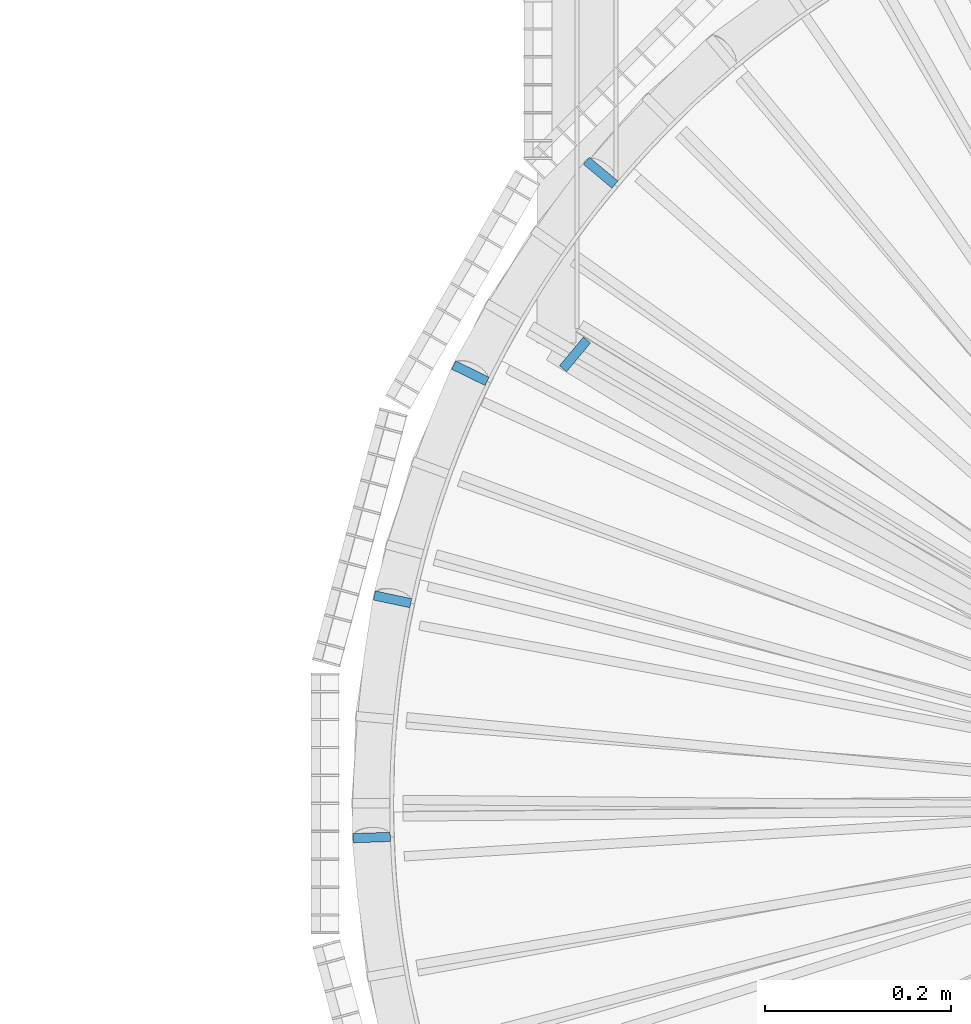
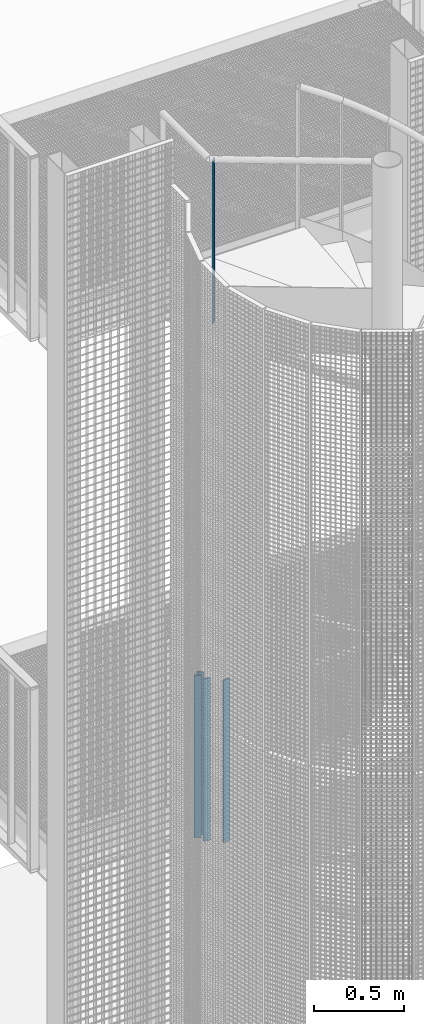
# One storey, part 7 of 1148: 5 columns, 4 elements without a shape of their own.
"""IFC2X3 building model written with IfcOpenShell, lengths in millimetres."""

from ifc_helpers import new_model, si_unit, frame, origin_with_axes, origin_2d_with_axis, place, context, subcontext, project, spatial, rectangle, extrude, material, type_object, element, aggregate, save


model = new_model("IFC2X3")

# Units and contexts
model_context = context("Model", 3, precision=1e-05, world=origin_with_axes())
body_context = subcontext(model_context, "Body", "Model", "MODEL_VIEW")
ifc_project = project(units=[si_unit("LENGTHUNIT", "METRE", prefix="MILLI"), si_unit("AREAUNIT", "SQUARE_METRE"), si_unit("VOLUMEUNIT", "CUBIC_METRE"), si_unit("MASSUNIT", "GRAM", prefix="KILO"), si_unit("TIMEUNIT", "SECOND"), si_unit("PLANEANGLEUNIT", "RADIAN"), si_unit("SOLIDANGLEUNIT", "STERADIAN"), si_unit("THERMODYNAMICTEMPERATUREUNIT", "DEGREE_CELSIUS"), si_unit("LUMINOUSINTENSITYUNIT", "LUMEN")], contexts=[model_context])

# Site, building, storey
site_placement = place(None, origin_with_axes())
site = spatial("IfcSite", under=ifc_project, at=site_placement, Name="Undefined", CompositionType="ELEMENT")
building_placement = place(site_placement, origin_with_axes())
building = spatial("IfcBuilding", under=site, at=building_placement, Name="Undefined", CompositionType="ELEMENT")
storey_placement = place(building_placement, origin_with_axes())
storey = spatial("IfcBuildingStorey", under=building, at=storey_placement, Name="Undefined", CompositionType="ELEMENT", Elevation=0.0)

# Assembly, column
assembly_1_placement = place(storey_placement, origin_with_axes())
assembly_1 = element("IfcElementAssembly", 1, at=assembly_1_placement, inside=storey, Name="MONTANT", AssemblyPlace="NOTDEFINED", PredefinedType="NOTDEFINED")
ifc_material = material(Name="STEEL/S235JR")
column_type = type_object("IfcColumnType", Name="PL10*40", PredefinedType="NOTDEFINED")
column_1_placement = place(assembly_1_placement, frame((-834.974357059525, 482.240511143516, 17289.84), z_axis=(0.0, 0.0, 1.0), x_axis=(0.640155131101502, 0.768245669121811, 0.0)))
column_1 = element("IfcColumn", 2, at=column_1_placement, type_object=column_type, material=ifc_material, Name="MONTANT", context=body_context, shape_type="SweptSolid", body=[
    extrude(rectangle(XDim=10.0, YDim=40.0, at=origin_2d_with_axis()), frame((0.0, 0.0, 1100.0), z_axis=(0.0, 0.0, -1.0), x_axis=(0.0, 1.0, 0.0)), (0.0, 0.0, 1.0), 1100.0),
])
aggregate(assembly_1, [column_1])

assembly_2_placement = place(storey_placement, origin_with_axes())
assembly_2 = element("IfcElementAssembly", 3, at=assembly_2_placement, inside=storey, Name="MONTANT", AssemblyPlace="NOTDEFINED", PredefinedType="NOTDEFINED")
column_2_placement = place(assembly_2_placement, frame((-947.328924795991, 462.043188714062, 13846.52), z_axis=(0.0, 0.0, 1.0), x_axis=(0.898794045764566, -0.438371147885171, 0.0)))
column_2 = element("IfcColumn", 4, at=column_2_placement, type_object=column_type, material=ifc_material, Name="MONTANT", context=body_context, shape_type="SweptSolid", body=[
    extrude(rectangle(XDim=10.0, YDim=40.0, at=origin_2d_with_axis()), frame((0.0, 0.0, 1100.0), z_axis=(0.0, 0.0, -1.0), x_axis=(0.0, 1.0, 0.0)), (0.0, 0.0, 1.0), 1100.0),
])

assembly_3_placement = place(storey_placement, origin_with_axes())
assembly_3 = element("IfcElementAssembly", 5, at=assembly_3_placement, inside=storey, Name="MONTANT", AssemblyPlace="NOTDEFINED", PredefinedType="NOTDEFINED")
column_3_placement = place(assembly_3_placement, frame((-1053.35793168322, -36.7840695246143, 14159.56), z_axis=(0.0, 0.0, 1.0), x_axis=(0.999390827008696, 0.0348994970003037, 0.0)))
column_3 = element("IfcColumn", 6, at=column_3_placement, type_object=column_type, material=ifc_material, Name="MONTANT", context=body_context, shape_type="SweptSolid", body=[
    extrude(rectangle(XDim=10.0, YDim=40.0, at=origin_2d_with_axis()), frame((0.0, 0.0, 1100.0), z_axis=(0.0, 0.0, -1.0), x_axis=(0.0, 1.0, 0.0)), (0.0, 0.0, 1.0), 1100.0),
])
aggregate(assembly_3, [column_3])

assembly_4_placement = place(storey_placement, origin_with_axes())
assembly_4 = element("IfcElementAssembly", 7, at=assembly_4_placement, inside=storey, Name="MONTANT", AssemblyPlace="NOTDEFINED", PredefinedType="NOTDEFINED")
column_4_placement = place(assembly_4_placement, frame((-1030.96757117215, 219.138922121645, 14003.04), z_axis=(0.0, 0.0, 1.0), x_axis=(0.978147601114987, -0.207911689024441, 0.0)))
column_4 = element("IfcColumn", 8, at=column_4_placement, type_object=column_type, material=ifc_material, Name="MONTANT", context=body_context, shape_type="SweptSolid", body=[
    extrude(rectangle(XDim=10.0, YDim=40.0, at=origin_2d_with_axis()), frame((0.0, 0.0, 1100.0), z_axis=(0.0, 0.0, -1.0), x_axis=(0.0, 1.0, 0.0)), (0.0, 0.0, 1.0), 1100.0),
])
aggregate(assembly_4, [column_4])

# Column
column_5_placement = place(assembly_2_placement, frame((-807.410843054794, 677.498140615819, 13690.0), z_axis=(0.0, 0.0, 1.0), x_axis=(0.766044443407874, -0.642787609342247, 0.0)))
column_5 = element("IfcColumn", 9, at=column_5_placement, type_object=column_type, material=ifc_material, Name="MONTANT", context=body_context, shape_type="SweptSolid", body=[
    extrude(rectangle(XDim=10.0, YDim=40.0, at=origin_2d_with_axis()), frame((0.0, 0.0, 1100.0), z_axis=(0.0, 0.0, -1.0), x_axis=(0.0, 1.0, 0.0)), (0.0, 0.0, 1.0), 1100.0),
])

aggregate(assembly_2, [column_2, column_5])

save(model, "model.ifc")
